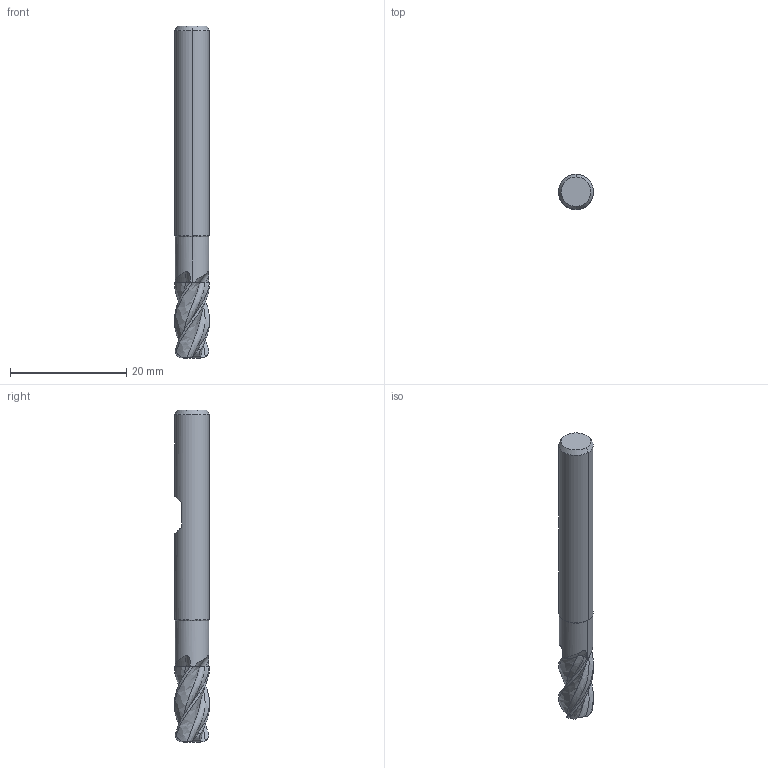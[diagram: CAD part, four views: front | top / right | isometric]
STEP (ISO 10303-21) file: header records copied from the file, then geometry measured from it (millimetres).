
FILE_DESCRIPTION(('no description'),'unknown implementation level');
FILE_NAME('solidjzqb7_FIBpczdvI8vRlIcZbX76k_1.STP',' ',('CIMSOURCE GmbH'),('CADClick - KiM GmbH - www.kimweb.de'),'unknown preprocess','ACIS','unknown authorization');
FILE_SCHEMA(('automotive_design'));
Length unit declared in the file: millimetre
Products named in the file (2): NOCUT; CUT
Bounding box: 6 x 6 x 57 mm (x, y, z)
Volume: 1393.3 mm3; surface area: 1376 mm2
Topology: 2 solids, 2 shells, 105 faces, 296 edges, 194 vertices
Faces by surface type: bspline 32, plane 23, cone 20, cylinder 16, revolution 12, torus 2
Entity records: 14750 total; most frequent: CARTESIAN_POINT 9021, STYLED_ITEM 597, PRESENTATION_STYLE_ASSIGNMENT 597, COLOUR_RGB 597, ORIENTED_EDGE 592, DIRECTION 366, EDGE_CURVE 296, CURVE_STYLE 296
